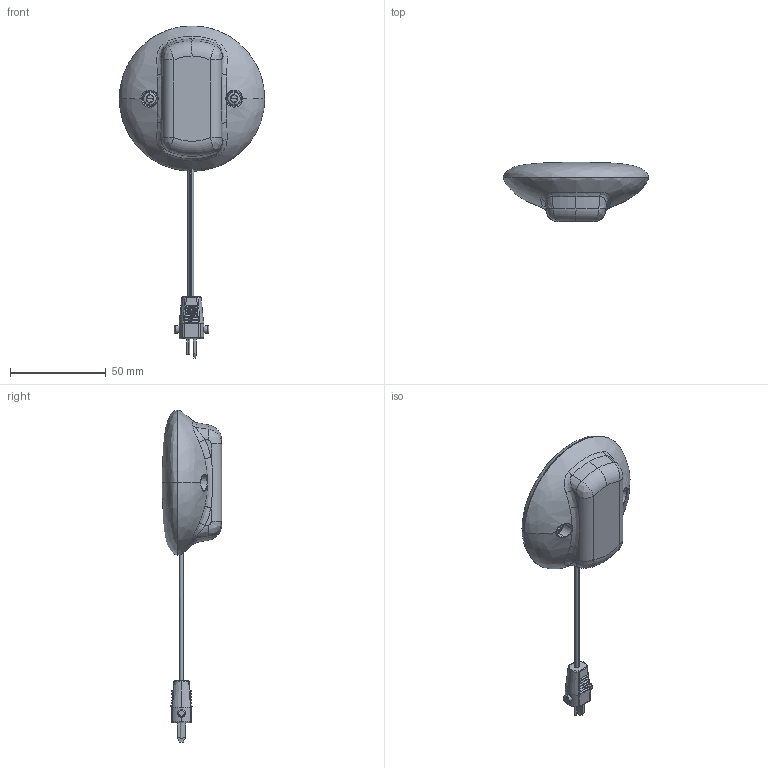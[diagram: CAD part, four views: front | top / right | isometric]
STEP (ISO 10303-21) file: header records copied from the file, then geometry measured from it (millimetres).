
FILE_DESCRIPTION (( 'STEP AP203' ), '1' );
FILE_NAME ('3D_TMM3.STEP', '2017-07-07T06:09:31', ( '' ), ( '' ), 'SwSTEP 2.0', 'SolidWorks 2015', '' );
FILE_SCHEMA (( 'CONFIG_CONTROL_DESIGN' ));
Length unit declared in the file: millimetre
Products named in the file (1): 3D_TMM3
Bounding box: 76 x 31 x 173.74 mm (x, y, z)
Surface area: 23225 mm2 (no closed solid volume)
Topology: 0 solids, 3 shells, 274 faces, 630 edges, 366 vertices
Faces by surface type: plane 101, cylinder 87, bspline 42, torus 25, cone 10, sphere 9
Entity records: 15299 total; most frequent: CARTESIAN_POINT 9705, ORIENTED_EDGE 1195, DIRECTION 1008, EDGE_CURVE 621, VERTEX_POINT 364, AXIS2_PLACEMENT_3D 358, LINE 292, VECTOR 292
